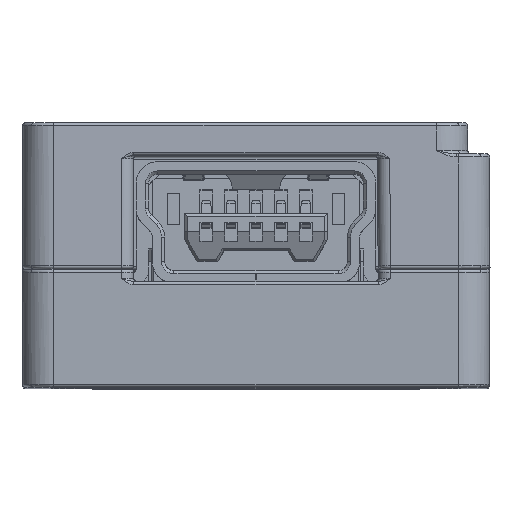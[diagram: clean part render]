
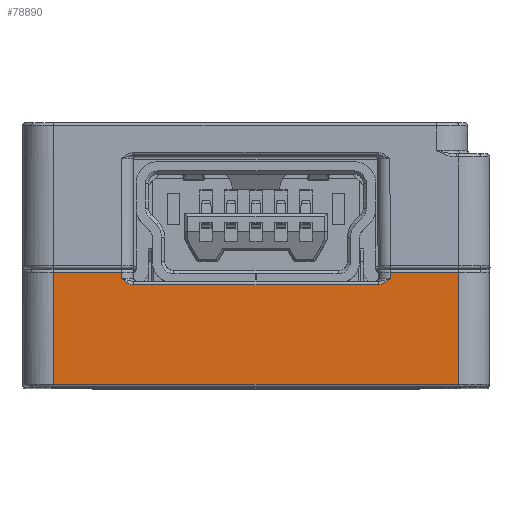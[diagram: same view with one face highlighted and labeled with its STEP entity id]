
A CAD part, top view. The second image highlights one B-rep face of the part: STEP entity #78890.
In plain terms, the highlighted planar face has unit normal (0, -0.004, 1) as drawn and (0.003, -1, 0) by its records, which use the part's own axes.
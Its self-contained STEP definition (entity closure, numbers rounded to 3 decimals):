
#513 = CARTESIAN_POINT ( 'NONE',  ( 0.5, -0.012, 3.922 ) ) ;
#584 = EDGE_CURVE ( 'NONE', #51350, #79999, #65695, .T. ) ;
#1346 = DIRECTION ( 'NONE',  ( 1., 0.003, 0.003 ) ) ;
#2197 = FACE_OUTER_BOUND ( 'NONE', #62829, .T. ) ;
#2777 = CARTESIAN_POINT ( 'NONE',  ( 0.3, -0.012, 4.322 ) ) ;
#2992 = EDGE_CURVE ( 'NONE', #25705, #114467, #84461, .T. ) ;
#3920 = VERTEX_POINT ( 'NONE', #5936 ) ;
#4887 = EDGE_CURVE ( 'NONE', #3920, #51350, #7769, .T. ) ;
#5010 = ORIENTED_EDGE ( 'NONE', *, *, #81719, .T. ) ;
#5936 = CARTESIAN_POINT ( 'NONE',  ( 0.1, -0.013, -4.324 ) ) ;
#6136 = EDGE_CURVE ( 'NONE', #114467, #52706, #16626, .T. ) ;
#6153 = LINE ( 'NONE', #49680, #74382 ) ;
#7769 = LINE ( 'NONE', #48108, #99687 ) ;
#9641 = DIRECTION ( 'NONE',  ( -1., -0.003, 0.003 ) ) ;
#12119 = LINE ( 'NONE', #112370, #104054 ) ;
#12816 = B_SPLINE_CURVE_WITH_KNOTS ( 'NONE', 3,
 ( #45209, #26599, #35134, #115285, #54135, #36641 ),
 .UNSPECIFIED., .F., .F.,
 ( 4, 2, 4 ),
 ( 0., 0., 0. ),
 .UNSPECIFIED. ) ;
#16626 = B_SPLINE_CURVE_WITH_KNOTS ( 'NONE', 3,
 ( #2777, #38104, #82921, #46657, #82157, #100801 ),
 .UNSPECIFIED., .F., .F.,
 ( 4, 2, 4 ),
 ( 0., 0., 0. ),
 .UNSPECIFIED. ) ;
#16631 = CARTESIAN_POINT ( 'NONE',  ( 0.3, -0.012, 4.322 ) ) ;
#16921 = LINE ( 'NONE', #61319, #72702 ) ;
#17633 = VERTEX_POINT ( 'NONE', #102011 ) ;
#17825 = CARTESIAN_POINT ( 'NONE',  ( 3.823, 0., 6.5 ) ) ;
#18232 = CARTESIAN_POINT ( 'NONE',  ( 0.1, -0.013, 4.324 ) ) ;
#19507 = CARTESIAN_POINT ( 'NONE',  ( 0.5, -0.012, -3.922 ) ) ;
#25705 = VERTEX_POINT ( 'NONE', #18232 ) ;
#26599 = CARTESIAN_POINT ( 'NONE',  ( 0.5, -0.012, -3.999 ) ) ;
#27492 = CARTESIAN_POINT ( 'NONE',  ( 3.7, 0., 6.5 ) ) ;
#30177 = CARTESIAN_POINT ( 'NONE',  ( 3.8, 0., 0. ) ) ;
#32332 = CARTESIAN_POINT ( 'NONE',  ( 0.1, -0.013, -6.513 ) ) ;
#34289 = ORIENTED_EDGE ( 'NONE', *, *, #65409, .T. ) ;
#35134 = CARTESIAN_POINT ( 'NONE',  ( 0.473, -0.012, -4.072 ) ) ;
#35828 = EDGE_CURVE ( 'NONE', #85225, #17633, #59067, .T. ) ;
#36483 = VECTOR ( 'NONE', #1346, 1000. ) ;
#36641 = CARTESIAN_POINT ( 'NONE',  ( 0.3, -0.012, -4.322 ) ) ;
#36814 = ORIENTED_EDGE ( 'NONE', *, *, #91435, .T. ) ;
#38104 = CARTESIAN_POINT ( 'NONE',  ( 0.348, -0.012, 4.263 ) ) ;
#38674 = EDGE_CURVE ( 'NONE', #45920, #3920, #12119, .T. ) ;
#39862 = DIRECTION ( 'NONE',  ( 1., 0.003, 0. ) ) ;
#41122 = CARTESIAN_POINT ( 'NONE',  ( 0.5, -0.012, 0. ) ) ;
#45209 = CARTESIAN_POINT ( 'NONE',  ( 0.5, -0.012, -3.922 ) ) ;
#45920 = VERTEX_POINT ( 'NONE', #77952 ) ;
#46657 = CARTESIAN_POINT ( 'NONE',  ( 0.473, -0.012, 4.072 ) ) ;
#48108 = CARTESIAN_POINT ( 'NONE',  ( 0.1, -0.013, 0. ) ) ;
#48656 = VERTEX_POINT ( 'NONE', #19507 ) ;
#49353 = EDGE_CURVE ( 'NONE', #17633, #25705, #16921, .T. ) ;
#49680 = CARTESIAN_POINT ( 'NONE',  ( 3.7, 0., 6.5 ) ) ;
#51350 = VERTEX_POINT ( 'NONE', #32332 ) ;
#51787 = DIRECTION ( 'NONE',  ( 1., 0.003, -0.009 ) ) ;
#52035 = LINE ( 'NONE', #41122, #88274 ) ;
#52706 = VERTEX_POINT ( 'NONE', #513 ) ;
#53803 = CARTESIAN_POINT ( 'NONE',  ( 3.823, 0., -6.5 ) ) ;
#54135 = CARTESIAN_POINT ( 'NONE',  ( 0.348, -0.012, -4.263 ) ) ;
#58572 = DIRECTION ( 'NONE',  ( 0., 0., 1. ) ) ;
#59067 = LINE ( 'NONE', #17825, #110563 ) ;
#59422 = DIRECTION ( 'NONE',  ( -1., -0.003, -0.009 ) ) ;
#61319 = CARTESIAN_POINT ( 'NONE',  ( 0.1, -0.013, 0. ) ) ;
#62133 = CARTESIAN_POINT ( 'NONE',  ( 3.7, 0., -6.5 ) ) ;
#62829 = EDGE_LOOP ( 'NONE', ( #96742, #5010, #70531, #103137, #114969, #68353, #36814, #34289, #109459, #111817 ) ) ;
#65409 = EDGE_CURVE ( 'NONE', #48656, #45920, #12816, .T. ) ;
#65695 = LINE ( 'NONE', #53803, #36483 ) ;
#68353 = ORIENTED_EDGE ( 'NONE', *, *, #6136, .T. ) ;
#69533 = AXIS2_PLACEMENT_3D ( 'NONE', #30177, #101421, #39862 ) ;
#70531 = ORIENTED_EDGE ( 'NONE', *, *, #35828, .T. ) ;
#72702 = VECTOR ( 'NONE', #104196, 1000. ) ;
#74382 = VECTOR ( 'NONE', #58572, 1000. ) ;
#74636 = DIRECTION ( 'NONE',  ( 0., 0., -1. ) ) ;
#77952 = CARTESIAN_POINT ( 'NONE',  ( 0.3, -0.012, -4.322 ) ) ;
#78890 = ADVANCED_FACE ( 'NONE', ( #2197 ), #92066, .T. ) ;
#79999 = VERTEX_POINT ( 'NONE', #62133 ) ;
#81719 = EDGE_CURVE ( 'NONE', #79999, #85225, #6153, .T. ) ;
#82157 = CARTESIAN_POINT ( 'NONE',  ( 0.5, -0.012, 3.999 ) ) ;
#82921 = CARTESIAN_POINT ( 'NONE',  ( 0.397, -0.012, 4.204 ) ) ;
#84461 = LINE ( 'NONE', #115207, #95612 ) ;
#85225 = VERTEX_POINT ( 'NONE', #27492 ) ;
#88274 = VECTOR ( 'NONE', #102255, 1000. ) ;
#91435 = EDGE_CURVE ( 'NONE', #52706, #48656, #52035, .T. ) ;
#92066 = PLANE ( 'NONE',  #69533 ) ;
#95612 = VECTOR ( 'NONE', #51787, 1000. ) ;
#96742 = ORIENTED_EDGE ( 'NONE', *, *, #584, .T. ) ;
#99687 = VECTOR ( 'NONE', #74636, 1000. ) ;
#100801 = CARTESIAN_POINT ( 'NONE',  ( 0.5, -0.012, 3.922 ) ) ;
#101421 = DIRECTION ( 'NONE',  ( 0.003, -1., 0. ) ) ;
#102011 = CARTESIAN_POINT ( 'NONE',  ( 0.1, -0.013, 6.513 ) ) ;
#102255 = DIRECTION ( 'NONE',  ( 0., 0., -1. ) ) ;
#103137 = ORIENTED_EDGE ( 'NONE', *, *, #49353, .T. ) ;
#104054 = VECTOR ( 'NONE', #59422, 1000. ) ;
#104196 = DIRECTION ( 'NONE',  ( 0., 0., -1. ) ) ;
#109459 = ORIENTED_EDGE ( 'NONE', *, *, #38674, .T. ) ;
#110563 = VECTOR ( 'NONE', #9641, 1000. ) ;
#111817 = ORIENTED_EDGE ( 'NONE', *, *, #4887, .T. ) ;
#112370 = CARTESIAN_POINT ( 'NONE',  ( 3.837, 0., -4.292 ) ) ;
#114467 = VERTEX_POINT ( 'NONE', #16631 ) ;
#114969 = ORIENTED_EDGE ( 'NONE', *, *, #2992, .T. ) ;
#115207 = CARTESIAN_POINT ( 'NONE',  ( 3.837, 0., 4.292 ) ) ;
#115285 = CARTESIAN_POINT ( 'NONE',  ( 0.397, -0.012, -4.204 ) ) ;
